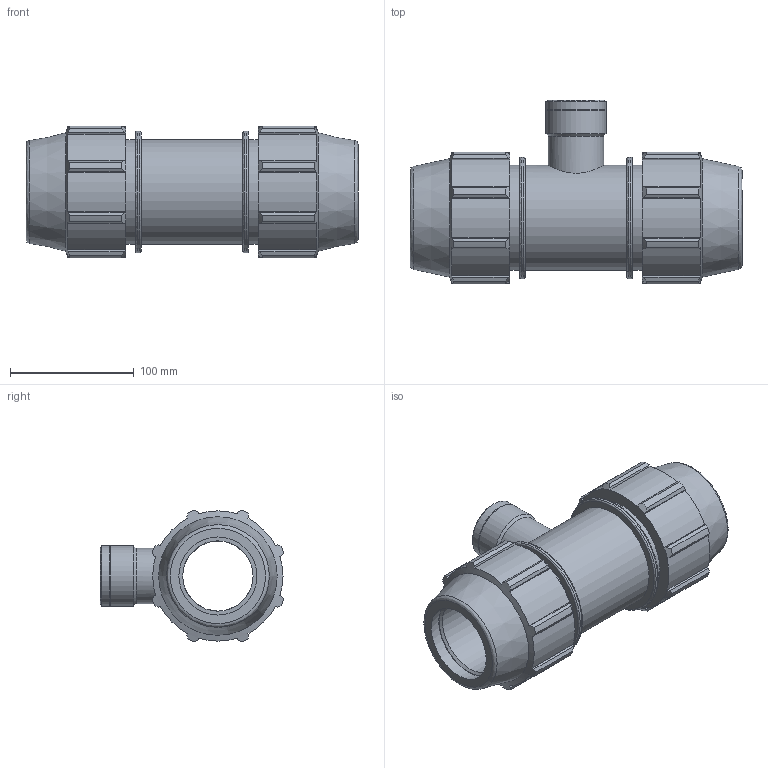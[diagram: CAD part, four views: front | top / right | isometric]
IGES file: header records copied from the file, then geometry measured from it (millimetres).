
Global section: file name: 071400063013_181400063013_0714060630130A.ipt; native system: Autodesk Inventor 2015; preprocessor: unknown; author: KIM; date: 20170606.172159; units: millimetre
Bounding box: 268 x 148.16 x 106.32 mm (x, y, z)
Volume: 1084602.4 mm3; surface area: 171871.8 mm2
Topology: 1 solids, 1 shells, 157 faces, 441 edges, 298 vertices
Faces by surface type: plane 79, cylinder 40, cone 23, revolution 15
Full cylindrical faces by diameter (mm): 44.795 x1, 48.69 x2, 84.75 x3, 98.31 x2
